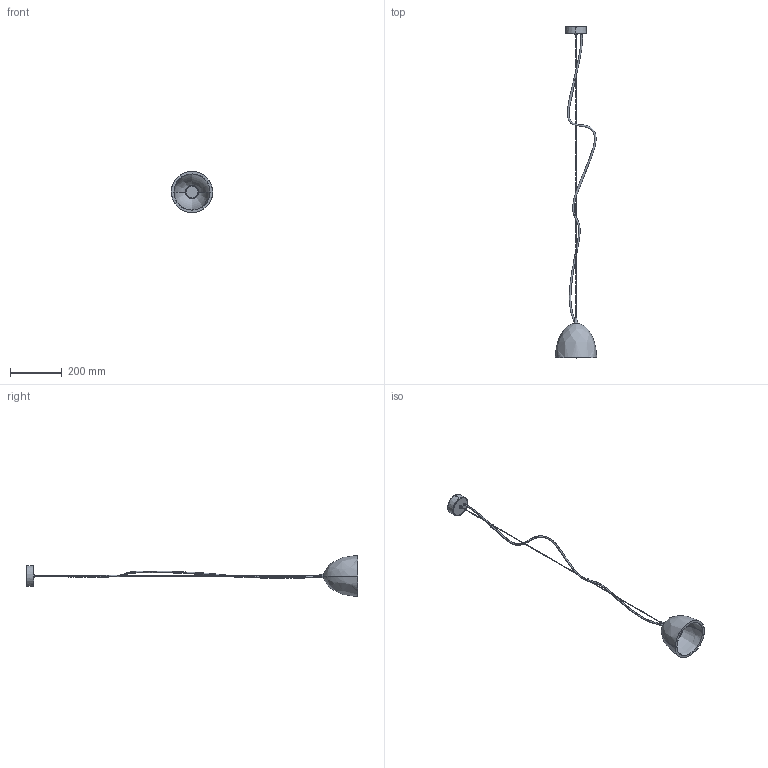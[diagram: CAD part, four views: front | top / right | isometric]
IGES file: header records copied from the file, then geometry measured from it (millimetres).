
Start section: SolidWorks IGES file using analytic representation for surfaces
Global section: file name: E:\3D lampy\Lava\Lava_6854.IGS; native system: SolidWorks 2016; preprocessor: SolidWorks 2016; author: Asia; date: 161028.114713; units: millimetre
Bounding box: 160 x 1287.3 x 160 mm (x, y, z)
Surface area: 183813.2 mm2 (no closed solid volume)
Topology: 0 solids, 0 shells, 422 faces, 5056 edges, 5056 vertices
Faces by surface type: bspline 246, revolution 176
